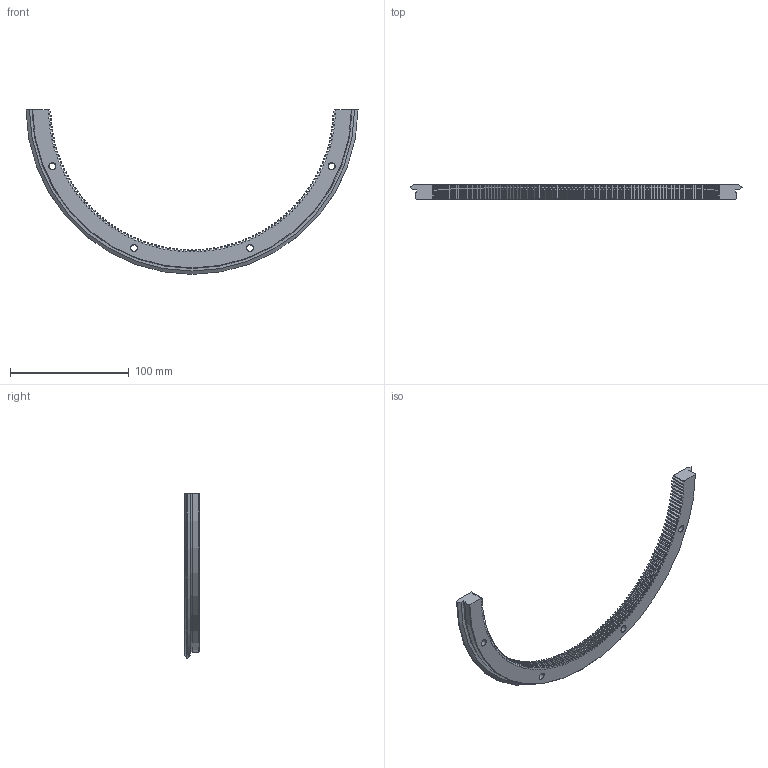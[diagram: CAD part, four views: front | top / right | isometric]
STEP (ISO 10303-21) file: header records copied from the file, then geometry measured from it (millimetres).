
FILE_DESCRIPTION( ( 'STEP AP203' ), '1' );
FILE_NAME( 'p:/temp/worker_55/temp/exporttempdir_1840_843_qPdTc/format_0/RES 280 R180 Q.stp', '2021-08-30T05:08:31', ( 'License CC BY-ND 4.0' ), ( 'CADENAS' ), ' ', 'PARTsolutions', ' ' );
FILE_SCHEMA( ( 'CONFIG_CONTROL_DESIGN' ) );
Length unit declared in the file: millimetre
Products named in the file (1): _RES 280 R180 Q
Bounding box: 279.99 x 12.25 x 139 mm (x, y, z)
Volume: 77979.2 mm3; surface area: 30692.2 mm2
Topology: 1 solids, 1 shells, 626 faces, 1856 edges, 1236 vertices
Faces by surface type: plane 250, cylinder 249, cone 126, torus 1
Full cylindrical faces by diameter (mm): 5.5 x4, 10 x4
Entity records: 21376 total; most frequent: CARTESIAN_POINT 4458, ORIENTED_EDGE 3688, DIRECTION 3478, EDGE_CURVE 1844, AXIS2_PLACEMENT_3D 1253, VERTEX_POINT 1237, LINE 972, VECTOR 972
